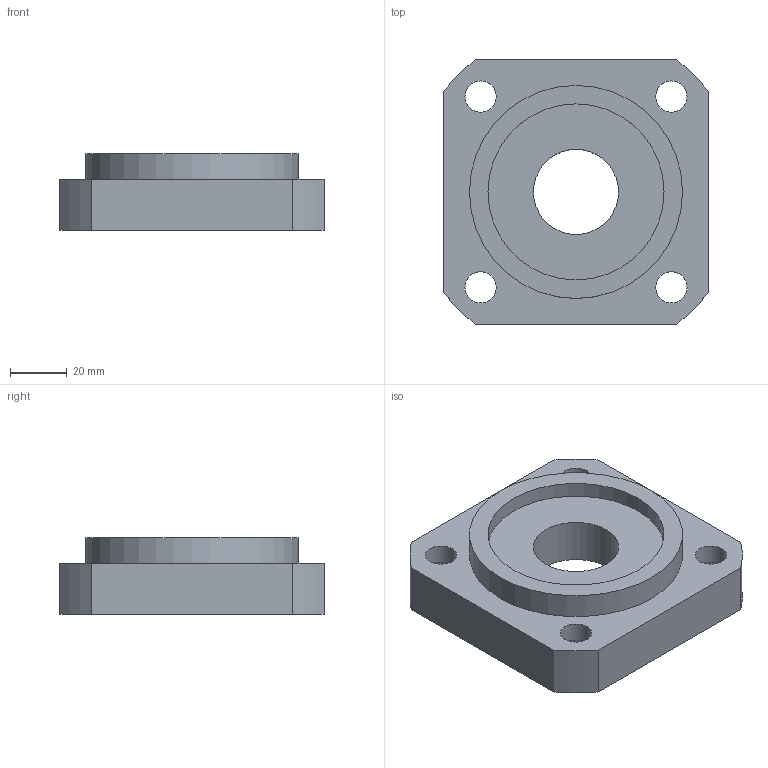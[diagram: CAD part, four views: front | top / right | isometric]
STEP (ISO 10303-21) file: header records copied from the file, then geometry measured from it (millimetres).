
FILE_DESCRIPTION(/* description */ (''),/* implementation_level */ '2;1');
FILE_NAME(/* name */ 'C:\Users\tenki620635\Desktop\官網\圖面\軸承座\3D\setp檔\FF30.stp',/* time_stamp */ '2020-11-23T14:54:59+08:00',/* author */ ('tenki620635'),/* organization */ (''),/* preprocessor_version */ 'ST-DEVELOPER v15.2',/* originating_system */ 'Autodesk Inventor 2014',/* authorisation */ '');
FILE_SCHEMA (('AUTOMOTIVE_DESIGN { 1 0 10303 214 3 1 1 }'));
Length unit declared in the file: millimetre
Products named in the file (1): FF30
Bounding box: 93 x 93 x 27 mm (x, y, z)
Volume: 134305 mm3; surface area: 30006.7 mm2
Topology: 1 solids, 1 shells, 29 faces, 60 edges, 40 vertices
Faces by surface type: cylinder 16, plane 13
Full cylindrical faces by diameter (mm): 11 x4, 17 x4, 30 x1, 62 x2, 75 x1
Entity records: 767 total; most frequent: DIRECTION 140, CARTESIAN_POINT 118, ORIENTED_EDGE 96, AXIS2_PLACEMENT_3D 62, EDGE_LOOP 58, EDGE_CURVE 48, VERTEX_POINT 40, FACE_BOUND 34
